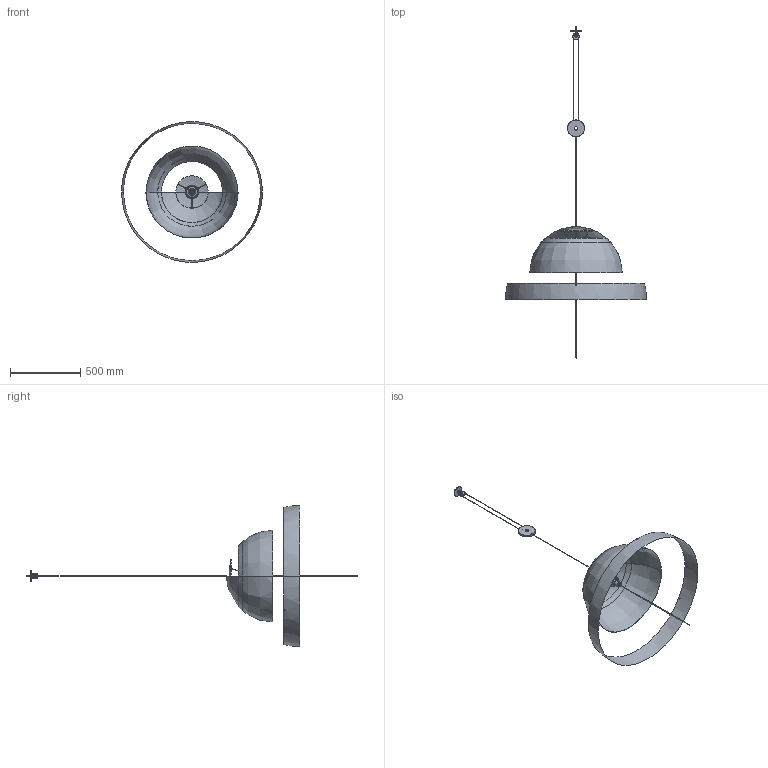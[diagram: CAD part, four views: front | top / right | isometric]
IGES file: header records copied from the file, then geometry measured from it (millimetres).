
Start section: SolidWorks IGES file using analytic representation for surfaces
Global section: file name: C:\Users\libre2.DOMINIO\Desktop\CARPYEN\PRODUCTOS\3D\OTROS\MACAO_pendant.IGS; native system: SolidWorks 2014; preprocessor: SolidWorks 2014; author: libre2; date: 170801.132247; units: millimetre
Bounding box: 1001.12 x 2361.02 x 999.27 mm (x, y, z)
Surface area: 1392361.7 mm2 (no closed solid volume)
Topology: 0 solids, 0 shells, 261 faces, 5983 edges, 5975 vertices
Faces by surface type: revolution 150, bspline 111
